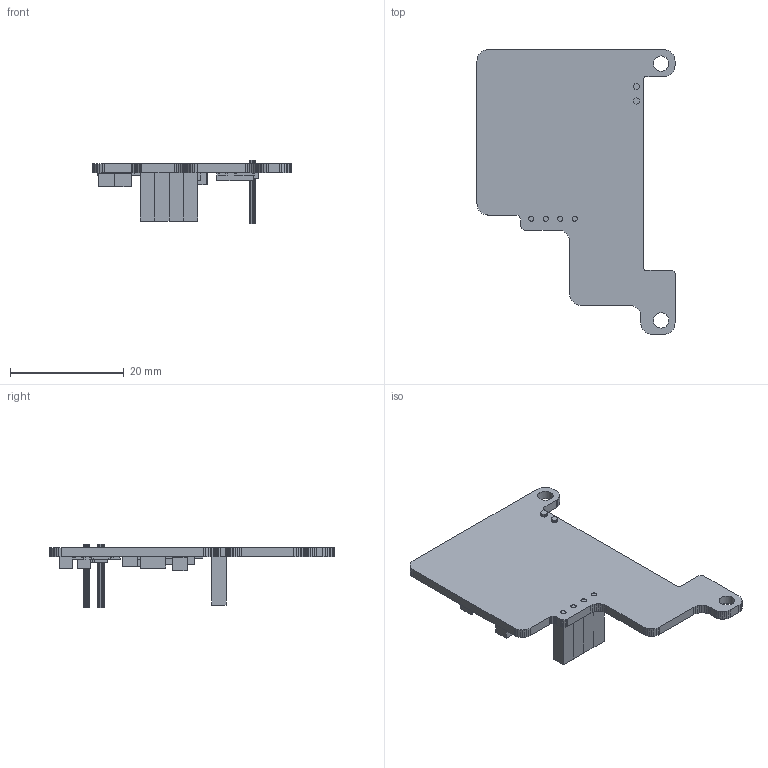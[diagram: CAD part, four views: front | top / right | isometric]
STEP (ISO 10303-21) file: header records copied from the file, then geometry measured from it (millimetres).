
FILE_DESCRIPTION(('Open CASCADE Model'),'2;1');
FILE_NAME('Open CASCADE Shape Model','2025-07-22T11:01:29',('Author'),( 'Open CASCADE'),'Open CASCADE STEP processor 6.5','Open CASCADE 6.5' ,'Unknown');
FILE_SCHEMA(('AUTOMOTIVE_DESIGN { 1 0 10303 214 1 1 1 1 }'));
Length unit declared in the file: millimetre
Products named in the file (94): PCB; Board; C12B; 829535472; Extruded; 829535344; R10; 1727816368; 1727816240; C2E; 1727816624; 1727816496; C2D; ZD1; 1727816752; C12A; C2C; 649053712; 649053584; C2B; C2A; C1C; 649053328; 649053456; C1B; 1727817520; 1727817136; C1A; 1727817008; 1727816880; BD1; 1398515776; 1398515904; BD2; C3; 1727817392; 1727817264; C4; 1727814704; 1727817776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
Assembly tree (174 placements, depth 4):
  PCB
    Board
    C12B
      829535472
        Extruded
      829535344  x2
        Extruded
    R10
      1727816368  x2
        Extruded
      1727816240
        Extruded
    C2E
      1727816624  x2
        Extruded
      1727816496
        Extruded
    C2D
      1727816624  x2
        Extruded
      1727816496
        Extruded
    ZD1
      1727816752
        Extruded
    C12A
      829535472
        Extruded
      829535344  x2
        Extruded
    C2C
      649053712
        Extruded
      649053584  x2
        Extruded
    C2B
      1727816624  x2
        Extruded
      1727816496
        Extruded
    C2A
      1727816624  x2
        Extruded
      1727816496
        Extruded
    C1C
      649053328
        Extruded
      649053456  x2
        Extruded
    C1B
      1727817520
        Extruded
      1727817136  x2
        Extruded
    C1A
      1727817008
        Extruded
      1727816880  x2
        Extruded
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Bounding box: 34.82 x 50.01 x 11.2 mm (x, y, z)
Volume: 2343.9 mm3; surface area: 4285.7 mm2
Topology: 111 solids, 111 shells, 877 faces, 1925 edges, 1254 vertices
Faces by surface type: plane 837, cylinder 32, sphere 8
Full cylindrical faces by diameter (mm): 0.889 x6, 1.016 x4, 2.7 x2
Entity records: 24403 total; most frequent: CARTESIAN_POINT 4145, DIRECTION 3603, LINE 2427, VECTOR 2427, ORIENTED_EDGE 1738, PCURVE 1734, DEFINITIONAL_REPRESENTATION 1734, EDGE_CURVE 867
